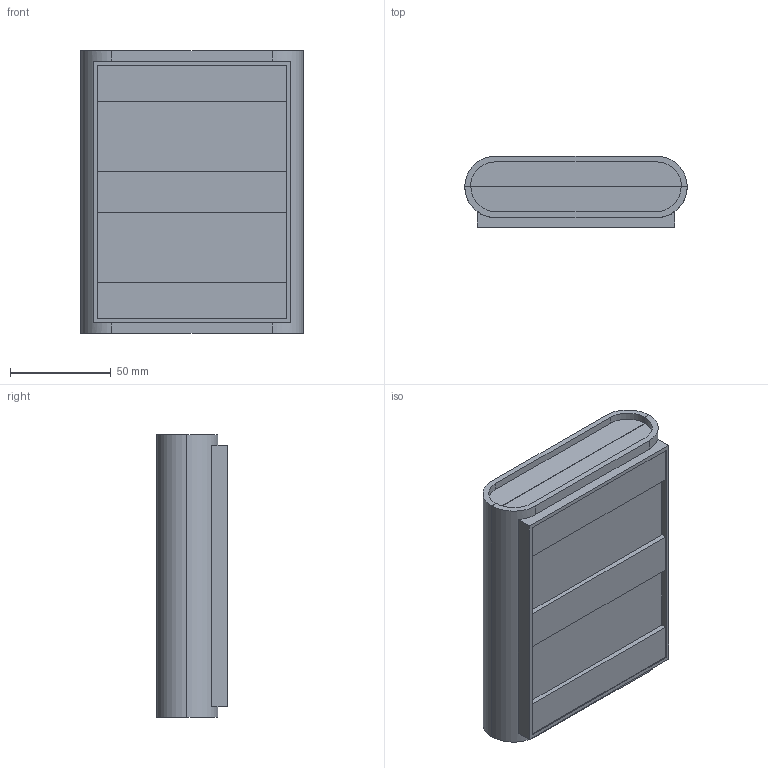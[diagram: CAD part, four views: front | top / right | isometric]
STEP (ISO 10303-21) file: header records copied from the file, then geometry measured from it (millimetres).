
FILE_DESCRIPTION (( 'STEP AP214' ), '1' );
FILE_NAME ('Conjunt PP62.STEP', '2016-09-13T00:08:40', ( 'aaa' ), ( '' ), 'SwSTEP 2.0', 'SolidWorks 2013', '' );
FILE_SCHEMA (( 'AUTOMOTIVE_DESIGN' ));
Length unit declared in the file: millimetre
Products named in the file (4): Conjunt PP62; Cos PP62; Tapa PP62; Cargol 3x8 PP62
Assembly tree (6 placements, depth 2):
  Conjunt PP62
    Cos PP62
    Tapa PP62
    Cargol 3x8 PP62  x4
Bounding box: 110.5 x 35.2 x 140.5 mm (x, y, z)
Volume: 102715.7 mm3; surface area: 93042.6 mm2
Topology: 6 solids, 6 shells, 495 faces, 1160 edges, 700 vertices
Faces by surface type: plane 253, cone 180, cylinder 54, torus 8
Entity records: 9230 total; most frequent: DIRECTION 1598, CARTESIAN_POINT 1564, ORIENTED_EDGE 1524, EDGE_CURVE 762, LINE 568, VECTOR 568, AXIS2_PLACEMENT_3D 515, VERTEX_POINT 481
